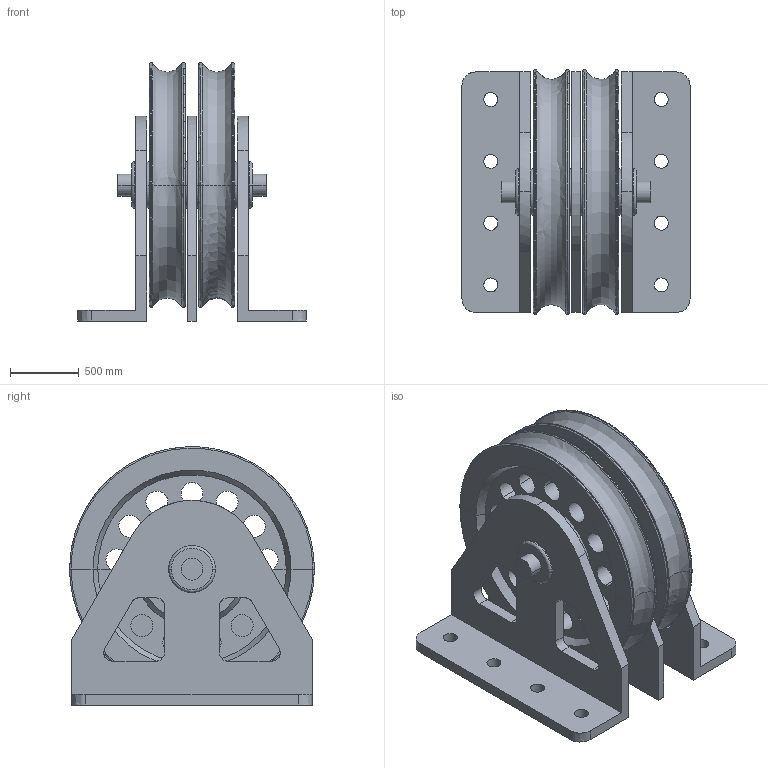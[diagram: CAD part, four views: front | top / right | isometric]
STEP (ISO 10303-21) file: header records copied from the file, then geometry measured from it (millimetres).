
FILE_DESCRIPTION(/* description */ (''),/* implementation_level */ '2;1');
FILE_NAME(/* name */ 'POULIE DOUBLE FIXE D 180',/* time_stamp */ '2005-05-31T08:54:19+02:00',/* author */ (''),/* organization */ (''),/* preprocessor_version */ 'ST-DEVELOPER v8',/* originating_system */ '',/* authorisation */ '');
FILE_SCHEMA (('CONFIG_CONTROL_DESIGN'));
Length unit declared in the file: centimetre
Products named in the file (1): 1
Bounding box: 1660 x 1780 x 1878.86 mm (x, y, z)
Volume: 1360702796.5 mm3; surface area: 34844334.3 mm2
Topology: 22 solids, 22 shells, 416 faces, 966 edges, 576 vertices
Faces by surface type: bspline 416
Entity records: 14976 total; most frequent: CARTESIAN_POINT 9397, ORIENTED_EDGE 1932, EDGE_CURVE 966, VERTEX_POINT 576, EDGE_LOOP 508, B_SPLINE_CURVE_WITH_KNOTS 472, ADVANCED_FACE 416, FACE_OUTER_BOUND 416
